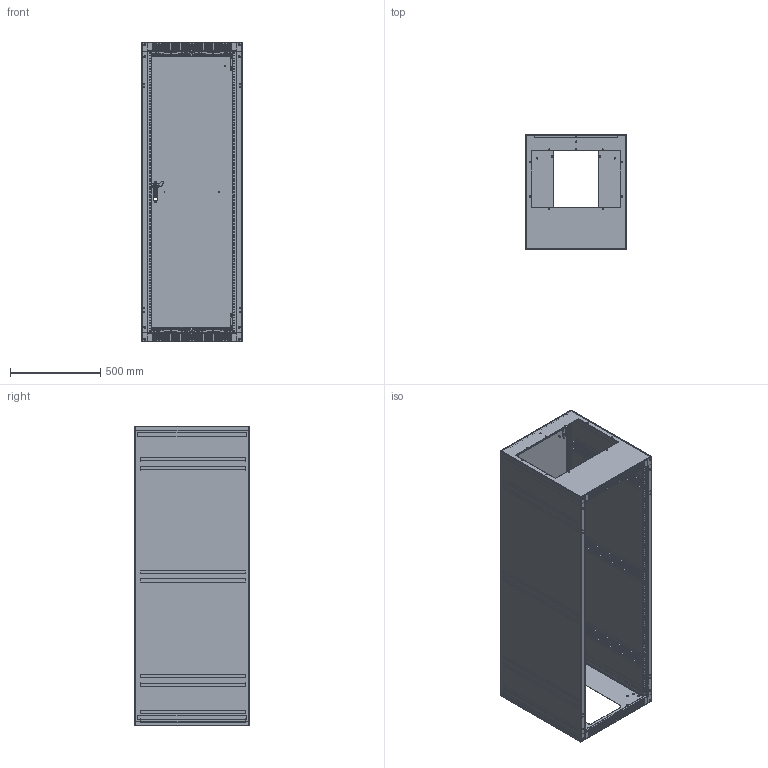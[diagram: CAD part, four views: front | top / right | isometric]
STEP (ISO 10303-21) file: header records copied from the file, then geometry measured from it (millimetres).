
FILE_DESCRIPTION((''),'2;1');
FILE_NAME('ERK-3525KD_ASM','2016-02-19T',('rrenderos'),('Middle Atlantic Products'),'PRO/ENGINEER BY PARAMETRIC TECHNOLOGY CORPORATION, 2014310','PRO/ENGINEER BY PARAMETRIC TECHNOLOGY CORPORATION, 2014310','');
FILE_SCHEMA(('CONFIG_CONTROL_DESIGN'));
Length unit declared in the file: inch
Products named in the file (44): BERK25B; PERK25B_ASM; PKEKOPH; 500-00788; 500-00032; AKDERK25B_ASM; BE3525SR; BERRB25; BERK25LWB; PE3525SR_ASM; IERR35R; AEKD3525SR_ASM; BE3525SL; PE3525SL_ASM; IERR35L; AEKD3525SL_ASM; PERK25T_ASM; BERK25T; PKEKOPUHFH; AERK25T_ASM; PERK35RD2; 500-00812_HINGE_LATCH_BASE_R; HINGE_LATCH_PIN; HINGE_LATCH_C-RING; HINGE_LATCH_SPRING; 500-00812_ASM; 500-00811_HINGE_LATCH_BASE_L; 500-00811_ASM; 500-00822; 500-00809_810_HOUSING; 500-00809_810_HANDLE; 500-00809_810_BUTTON; 500-00809_810_BRACKET; 500-00809_810_PIN; 500-00810_ASM; 500-00818; 500-00827; HANDLE_SCREW; HANDLE_CAPTIVATED_LOCKWASHER; HANDLE_CAPTIVATED_WASHER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
Assembly tree (67 placements, depth 4):
  ERK-3525KD_ASM
    AKDERK25B_ASM
      PERK25B_ASM
        BERK25B
      PKEKOPH  x2
      500-00788  x2
      500-00032
    AEKD3525SR_ASM
      PE3525SR_ASM
        BE3525SR
        BERRB25  x3
        BERK25LWB  x2
      IERR35R
    AEKD3525SL_ASM
      PE3525SL_ASM
        BE3525SL
        BERRB25  x4
        BERK25LWB  x2
      IERR35L
    AERK25T_ASM
      PERK25T_ASM
      BERK25T
      PKEKOPUHFH  x2
      500-00788
    AERK35RD2_ASM
      PERK35RD2
      500-00812_ASM
        500-00812_HINGE_LATCH_BASE_R
        HINGE_LATCH_PIN
        HINGE_LATCH_C-RING
        HINGE_LATCH_SPRING
      500-00811_ASM
        500-00811_HINGE_LATCH_BASE_L
        HINGE_LATCH_PIN
        HINGE_LATCH_C-RING
        HINGE_LATCH_SPRING
      500-00822  x4
      500-00810_ASM
        500-00809_810_HOUSING
        500-00809_810_HANDLE
        500-00809_810_BUTTON
        500-00809_810_BRACKET
        500-00809_810_PIN  x2
      500-00818
      500-00827  x2
      500-00826_ASM  x4
        HANDLE_SCREW
        HANDLE_CAPTIVATED_LOCKWASHER
        HANDLE_CAPTIVATED_WASHER
      500-00953
Bounding box: 558.8 x 636.4 x 1660.47 mm (x, y, z)
Volume: 7131971 mm3; surface area: 9701292.6 mm2
Topology: 88 solids, 88 shells, 3982 faces, 9937 edges, 6142 vertices
Faces by surface type: plane 2058, cylinder 1666, bspline 144, torus 54, cone 40, sphere 20
Entity records: 96621 total; most frequent: CARTESIAN_POINT 26803, DIRECTION 14899, ORIENTED_EDGE 13828, EDGE_CURVE 6914, AXIS2_PLACEMENT_3D 5494, VERTEX_POINT 4362, VECTOR 3911, LINE 3911
